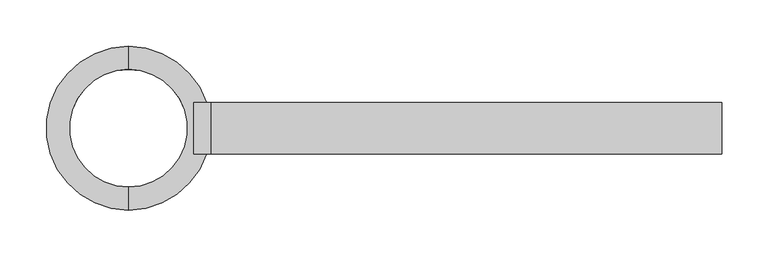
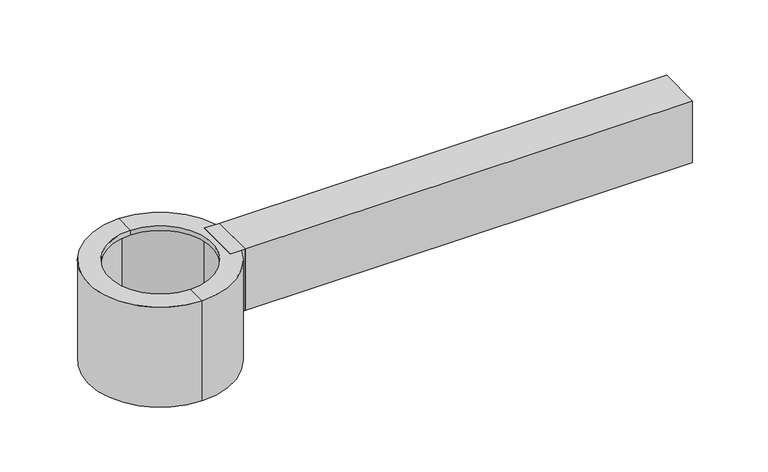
"""IFC4 building model written with IfcOpenShell, lengths in millimetres: light fixture geometry, CANDELA_CLF : 1XCLF03."""

from ifc_helpers import new_model, si_unit, frame, origin, origin_with_axes, place, context, project, spatial, polyline, circle_curve, outline, extrude, source, transform, mapped, element, save
from ifc_brep_helpers import plane_surface, cylinder_surface, revolved_surface, advanced_brep


def light_fixture_b2014c29(model_context):
    return source(origin(), model_context, "Body", "SolidModel", [
        advanced_brep(
        [(0.0, 88.3, -50.0), (0.0, 88.3, 80.0), (0.0, 63.5, 80.0), (0.0, 63.5, 74.0), (0.0, 82.3, 74.0), (0.0, 82.3, -44.0), (0.0, 63.5, -44.0), (0.0, 63.5, -50.0), (0.0, -88.3, -50.0), (0.0, -63.5, -50.0), (0.0, -63.5, -44.0), (0.0, -82.3, -44.0), (0.0, -82.3, 74.0), (0.0, -63.5, 74.0), (0.0, -63.5, 80.0), (0.0, -88.3, 80.0)],
        [
            (0, 1),
            (1, 2),
            (2, 3),
            (3, 4),
            (4, 5),
            (5, 6),
            (6, 7),
            (7, 0),
            (8, 9),
            (9, 10),
            (10, 11),
            (11, 12),
            (12, 13),
            (13, 14),
            (14, 15),
            (15, 8),
            (8, 0, circle_curve(frame((0.0, 0.0, -50.0), z_axis=(0.0, 0.0, -1.0), x_axis=(0.0, 1.0, 0.0)), 88.3)),
            (7, 9, circle_curve(frame((0.0, 0.0, -50.0), z_axis=(0.0, 0.0, 1.0), x_axis=(0.0, 1.0, 0.0)), 63.5)),
            (6, 10, circle_curve(frame((0.0, 0.0, -44.0), z_axis=(0.0, 0.0, 1.0), x_axis=(0.0, 1.0, 0.0)), 63.5)),
            (5, 11, circle_curve(frame((0.0, 0.0, -44.0), z_axis=(0.0, 0.0, 1.0), x_axis=(0.0, 1.0, 0.0)), 82.3)),
            (4, 12, circle_curve(frame((0.0, 0.0, 74.0), z_axis=(0.0, 0.0, 1.0), x_axis=(0.0, 1.0, 0.0)), 82.3)),
            (3, 13, circle_curve(frame((0.0, 0.0, 74.0), z_axis=(0.0, 0.0, 1.0), x_axis=(0.0, 1.0, 0.0)), 63.5)),
            (2, 14, circle_curve(frame((0.0, 0.0, 80.0), z_axis=(0.0, 0.0, 1.0), x_axis=(0.0, 1.0, 0.0)), 63.5)),
            (1, 15, circle_curve(frame((0.0, 0.0, 80.0), z_axis=(0.0, 0.0, 1.0), x_axis=(0.0, 1.0, 0.0)), 88.3)),
        ],
        [
            plane_surface(frame((0.0, 0.0, -520.9920377), z_axis=(1.0, 0.0, 0.0), x_axis=(0.0, 1.0, 0.0))),
            plane_surface(frame((0.0, 0.0, -520.9920377), z_axis=(1.0, 0.0, 0.0), x_axis=(0.0, -1.0, 0.0))),
            plane_surface(frame((0.0, 0.0, -50.0), z_axis=(0.0, 0.0, -1.0), x_axis=(0.0, 1.0, 0.0))),
            revolved_surface(polyline([(0.0, 63.5, -50.0), (0.0, 63.5, -44.0)]), (0.0, 0.0, -520.9920377), (0.0, 0.0, -1.0)),
            plane_surface(frame((0.0, 0.0, -44.0), z_axis=(0.0, 0.0, 1.0), x_axis=(0.0, 1.0, 0.0))),
            revolved_surface(polyline([(0.0, 82.3, -44.0), (0.0, 82.3, 74.0)]), (0.0, 0.0, -520.9920377), (0.0, 0.0, -1.0)),
            plane_surface(frame((0.0, 0.0, 74.0), z_axis=(0.0, 0.0, -1.0), x_axis=(0.0, 1.0, 0.0))),
            revolved_surface(polyline([(0.0, 63.5, 74.0), (0.0, 63.5, 80.0)]), (0.0, 0.0, -520.9920377), (0.0, 0.0, -1.0)),
            plane_surface(frame((0.0, 0.0, 80.0), z_axis=(0.0, 0.0, 1.0), x_axis=(0.0, 1.0, 0.0))),
            cylinder_surface(frame((0.0, 0.0, -520.9920377), z_axis=(0.0, 0.0, -1.0), x_axis=(0.0, 1.0, 0.0)), 88.3),
        ],
        [
            (0, [[1, 2, 3, 4, 5, 6, 7, 8]]),
            (1, [[9, 10, 11, 12, 13, 14, 15, 16]]),
            (2, [[-9, 17, -8, 18]]),
            (3, [[-10, -18, -7, 19]]),
            (4, [[-11, -19, -6, 20]]),
            (5, [[-12, -20, -5, 21]]),
            (6, [[-13, -21, -4, 22]]),
            (7, [[-14, -22, -3, 23]]),
            (8, [[-15, -23, -2, 24]]),
            (9, [[-16, -24, -1, -17]]),
        ],
    ),
        extrude(outline(polyline([(88.3, -27.5), (69.9764576, -27.5), (69.9764576, 27.5), (88.3, 27.5), (88.3, -27.5)])), origin_with_axes(), (0.0, 0.0, 1.0), 80.0),
        advanced_brep(
        [(0.0, 88.3, -50.0), (0.0, 63.5, -50.0), (0.0, 63.5, -44.0), (0.0, 82.3, -44.0), (0.0, 82.3, 74.0), (0.0, 63.5, 74.0), (0.0, 63.5, 80.0), (0.0, 88.3, 80.0), (0.0, -88.3, -50.0), (0.0, -88.3, 80.0), (0.0, -63.5, 80.0), (0.0, -63.5, 74.0), (0.0, -82.3, 74.0), (0.0, -82.3, -44.0), (0.0, -63.5, -44.0), (0.0, -63.5, -50.0)],
        [
            (0, 1),
            (1, 2),
            (2, 3),
            (3, 4),
            (4, 5),
            (5, 6),
            (6, 7),
            (7, 0),
            (8, 9),
            (9, 10),
            (10, 11),
            (11, 12),
            (12, 13),
            (13, 14),
            (14, 15),
            (15, 8),
            (15, 1, circle_curve(frame((0.0, 0.0, -50.0), z_axis=(0.0, 0.0, 1.0), x_axis=(0.0, 1.0, 0.0)), 63.5)),
            (0, 8, circle_curve(frame((0.0, 0.0, -50.0), z_axis=(0.0, 0.0, -1.0), x_axis=(0.0, 1.0, 0.0)), 88.3)),
            (14, 2, circle_curve(frame((0.0, 0.0, -44.0), z_axis=(0.0, 0.0, 1.0), x_axis=(0.0, 1.0, 0.0)), 63.5)),
            (13, 3, circle_curve(frame((0.0, 0.0, -44.0), z_axis=(0.0, 0.0, 1.0), x_axis=(0.0, 1.0, 0.0)), 82.3)),
            (12, 4, circle_curve(frame((0.0, 0.0, 74.0), z_axis=(0.0, 0.0, 1.0), x_axis=(0.0, 1.0, 0.0)), 82.3)),
            (11, 5, circle_curve(frame((0.0, 0.0, 74.0), z_axis=(0.0, 0.0, 1.0), x_axis=(0.0, 1.0, 0.0)), 63.5)),
            (10, 6, circle_curve(frame((0.0, 0.0, 80.0), z_axis=(0.0, 0.0, 1.0), x_axis=(0.0, 1.0, 0.0)), 63.5)),
            (9, 7, circle_curve(frame((0.0, 0.0, 80.0), z_axis=(0.0, 0.0, 1.0), x_axis=(0.0, 1.0, 0.0)), 88.3)),
        ],
        [
            plane_surface(frame((0.0, 0.0, -520.9920377), z_axis=(-1.0, 0.0, 0.0), x_axis=(0.0, 1.0, 0.0))),
            plane_surface(frame((0.0, 0.0, -520.9920377), z_axis=(-1.0, 0.0, 0.0), x_axis=(0.0, -1.0, 0.0))),
            plane_surface(frame((0.0, 0.0, -50.0), z_axis=(0.0, 0.0, -1.0), x_axis=(0.0, 1.0, 0.0))),
            revolved_surface(polyline([(0.0, 63.5, -44.0), (0.0, 63.5, -50.0)]), (0.0, 0.0, -520.9920377), (0.0, 0.0, 1.0)),
            plane_surface(frame((0.0, 0.0, -44.0), z_axis=(0.0, 0.0, 1.0), x_axis=(0.0, 1.0, 0.0))),
            revolved_surface(polyline([(0.0, 82.3, 74.0), (0.0, 82.3, -44.0)]), (0.0, 0.0, -520.9920377), (0.0, 0.0, 1.0)),
            plane_surface(frame((0.0, 0.0, 74.0), z_axis=(0.0, 0.0, -1.0), x_axis=(0.0, 1.0, 0.0))),
            revolved_surface(polyline([(0.0, 63.5, 80.0), (0.0, 63.5, 74.0)]), (0.0, 0.0, -520.9920377), (0.0, 0.0, 1.0)),
            plane_surface(frame((0.0, 0.0, 80.0), z_axis=(0.0, 0.0, 1.0), x_axis=(0.0, 1.0, 0.0))),
            cylinder_surface(frame((0.0, 0.0, -520.9920377), z_axis=(0.0, 0.0, 1.0), x_axis=(0.0, 1.0, 0.0)), 88.3),
        ],
        [
            (0, [[1, 2, 3, 4, 5, 6, 7, 8]]),
            (1, [[9, 10, 11, 12, 13, 14, 15, 16]]),
            (2, [[-16, 17, -1, 18]]),
            (3, [[-15, 19, -2, -17]]),
            (4, [[-14, 20, -3, -19]]),
            (5, [[-13, 21, -4, -20]]),
            (6, [[-12, 22, -5, -21]]),
            (7, [[-11, 23, -6, -22]]),
            (8, [[-10, 24, -7, -23]]),
            (9, [[-9, -18, -8, -24]]),
        ],
    ),
        extrude(outline(polyline([(-27.5, 0.0), (-27.5, 80.0), (27.5, 80.0), (27.5, 0.0), (-27.5, 0.0)]), holes=[polyline([(21.5, 6.0), (21.5, 74.0), (-21.5, 74.0), (-21.5, 6.0), (21.5, 6.0)])]), frame((88.3, 0.0, 0.0), z_axis=(1.0, 0.0, 0.0), x_axis=(0.0, 1.0, 0.0)), (0.0, 0.0, 1.0), 550.0),
    ])


if __name__ == "__main__":
    model = new_model("IFC4")
    model_context = context("Model", 3, world=origin())
    ifc_project = project(units=[si_unit("LENGTHUNIT", "METRE", prefix="MILLI")], contexts=[model_context])
    site = spatial("IfcSite", under=ifc_project)
    building = spatial("IfcBuilding", under=site)
    placement = place(None, origin())
    light_fixture_shape = light_fixture_b2014c29(model_context)
    element("IfcLightFixture", 1, ObjectType="CANDELA_CLF : 1XCLF03", at=placement, inside=building, context=model_context, shape_type="MappedRepresentation", body=[
        mapped(light_fixture_shape, transform((0.0, 0.0, 0.0), x_axis=(1.0, 0.0, 0.0), y_axis=(0.0, 1.0, 0.0), z_axis=(0.0, 0.0, 1.0))),
    ])
    save(model, "model.ifc")
